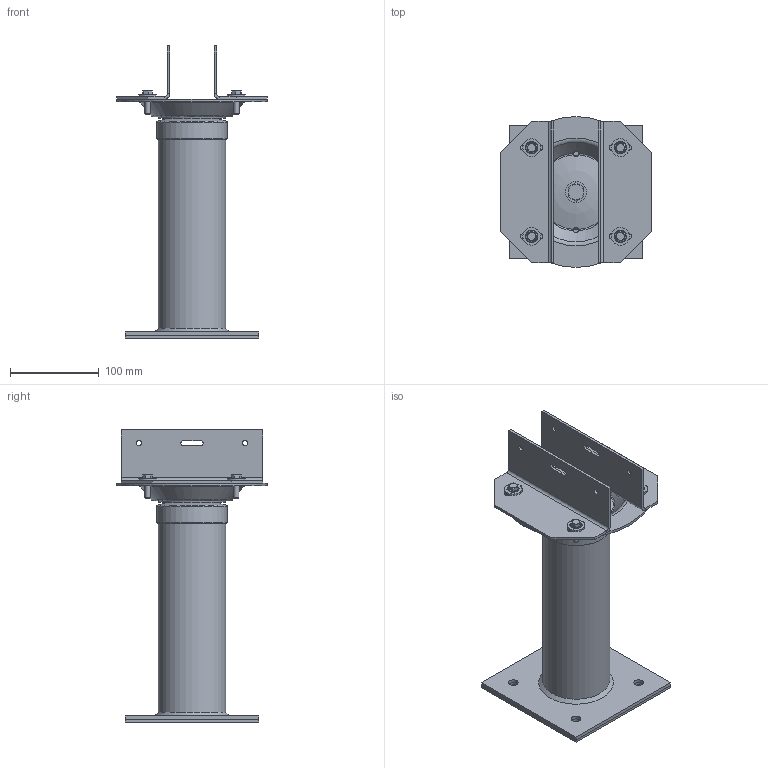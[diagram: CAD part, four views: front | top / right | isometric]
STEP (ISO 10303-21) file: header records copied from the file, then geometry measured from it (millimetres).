
FILE_DESCRIPTION(/* description */ ('PIN Typ A auf Beton mit Dämmung 240 mm und Dachfolie'),/* implementation_level */ '2;1');
FILE_NAME(/* name */ '777-102-240_PIN-A-B-DF.stp',/* time_stamp */ '2024-01-15T11:16:29+01:00',/* author */ ('fstrolz'),/* organization */ (''),/* preprocessor_version */ 'ST-DEVELOPER v19.2',/* originating_system */ 'Autodesk Inventor 2023',/* authorisation */ '');
FILE_SCHEMA (('AUTOMOTIVE_DESIGN { 1 0 10303 214 3 1 1 }'));
Length unit declared in the file: millimetre
Products named in the file (20): 777-102-240_PIN-A-B-DF; 777-501; 777-502; 777-503; 777-601_240; 777-601_01; 777-601_02; 777-601_240_1; 777-601_03; 777-601_04; 777-603; 777-604; 777-605; 777-612; 777-610; 777-611; 777-504; DIN 6921 - M6 x 20; DIN 125 - A 10,5; 777-613
Assembly tree (24 placements, depth 3):
  777-102-240_PIN-A-B-DF
    777-501
    777-502
    777-503  x2
    777-601_240
      777-601_01
      777-601_02
      777-601_240_1
      777-601_03
      777-601_04
    777-603
    777-604
    777-605
    777-612  x2
    777-610
    777-611
    777-504  x4
      DIN 6921 - M6 x 20
      DIN 125 - A 10,5
    777-613
Bounding box: 170.03 x 170.03 x 329.42 mm (x, y, z)
Volume: 784538.1 mm3; surface area: 386529.4 mm2
Topology: 25 solids, 25 shells, 288 faces, 668 edges, 430 vertices
Faces by surface type: plane 140, cylinder 77, cone 51, torus 15, bspline 4, sphere 1
Full cylindrical faces by diameter (mm): 3.5 x2, 4 x2, 5 x2, 5.2 x2, 5.7 x4, 6 x10, 7 x2, 10.106 x1, 10.5 x4, 11 x9, 12 x1, 12.5 x1, 13 x3, 14 x1, 16.63 x1, 20 x4, 24 x1, 50 x1, 69.7 x1, 69.8 x1, 70.3 x3, 71 x1, 76.1 x2, 80 x1, 170.033 x1
Entity records: 6788 total; most frequent: CARTESIAN_POINT 1430, DIRECTION 1038, ORIENTED_EDGE 888, EDGE_CURVE 444, AXIS2_PLACEMENT_3D 424, VERTEX_POINT 286, EDGE_LOOP 260, CIRCLE 195
